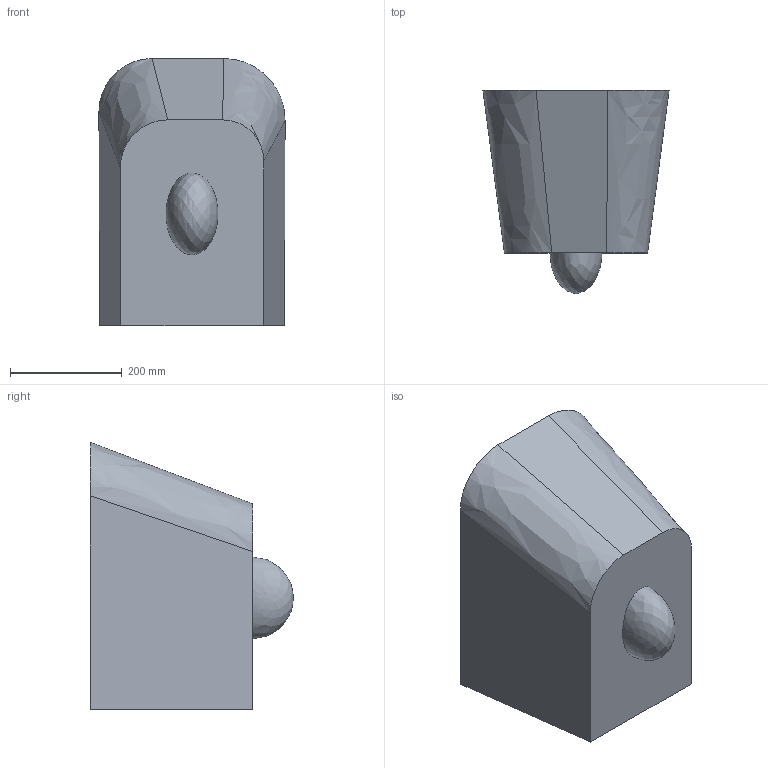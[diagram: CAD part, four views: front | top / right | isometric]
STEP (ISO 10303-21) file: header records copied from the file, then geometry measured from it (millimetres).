
FILE_DESCRIPTION(('FreeCAD Model'),'2;1');
FILE_NAME('Open CASCADE Shape Model','2025-05-30T21:10:17',(''),(''), 'Open CASCADE STEP processor 7.8','FreeCAD','Unknown');
FILE_SCHEMA(('AUTOMOTIVE_DESIGN { 1 0 10303 214 1 1 1 1 }'));
Length unit declared in the file: millimetre
Products named in the file (4): TopLevelAssembly; Obr\X\F3t profilu; Wyci\X2\0105\X0\ganie001; Po\X2\01420105\X0\czona geometria bry\X2\0142\X0\owa
Assembly tree (3 placements, depth 2):
  TopLevelAssembly
    Obr\X\F3t profilu
    Wyci\X2\0105\X0\ganie001
    Po\X2\01420105\X0\czona geometria bry\X2\0142\X0\owa
Bounding box: 332.65 x 363 x 477.24 mm (x, y, z)
Volume: 26015135.9 mm3; surface area: 828361.5 mm2
Topology: 3 solids, 3 shells, 28 faces, 59 edges, 38 vertices
Faces by surface type: plane 14, bspline 8, cylinder 6
Entity records: 1054 total; most frequent: CARTESIAN_POINT 376, DIRECTION 125, ORIENTED_EDGE 114, EDGE_CURVE 57, AXIS2_PLACEMENT_3D 46, VERTEX_POINT 38, LINE 33, VECTOR 33
